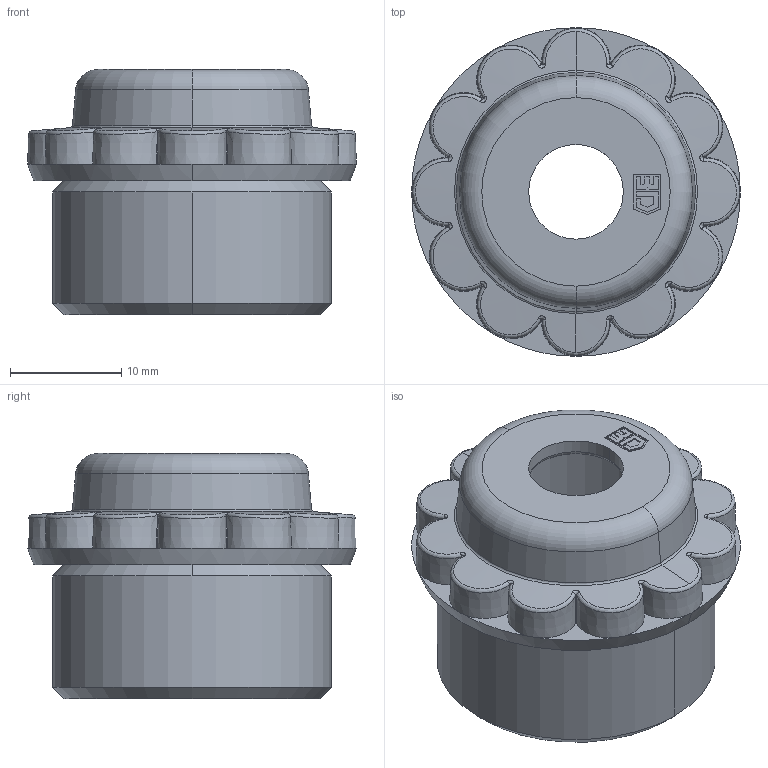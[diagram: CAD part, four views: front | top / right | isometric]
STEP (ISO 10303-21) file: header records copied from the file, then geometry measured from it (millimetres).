
FILE_DESCRIPTION (( 'STEP AP203' ), '1' );
FILE_NAME ('125 MG.STEP', '2005-11-29T08:10:43', ( ' ' ), ( '' ), 'SwSTEP 2.0', 'SolidWorks 2005278', '' );
FILE_SCHEMA (( 'CONFIG_CONTROL_DESIGN' ));
Length unit declared in the file: millimetre
Products named in the file (1): 125 MG
Bounding box: 29.5 x 29.5 x 22 mm (x, y, z)
Volume: 4973.8 mm3; surface area: 4274.6 mm2
Topology: 1 solids, 1 shells, 234 faces, 605 edges, 385 vertices
Faces by surface type: plane 125, bspline 58, cone 33, torus 10, cylinder 8
Entity records: 32907 total; most frequent: CARTESIAN_POINT 27488, ORIENTED_EDGE 1210, DIRECTION 930, EDGE_CURVE 605, VERTEX_POINT 385, LINE 348, VECTOR 348, AXIS2_PLACEMENT_3D 291
